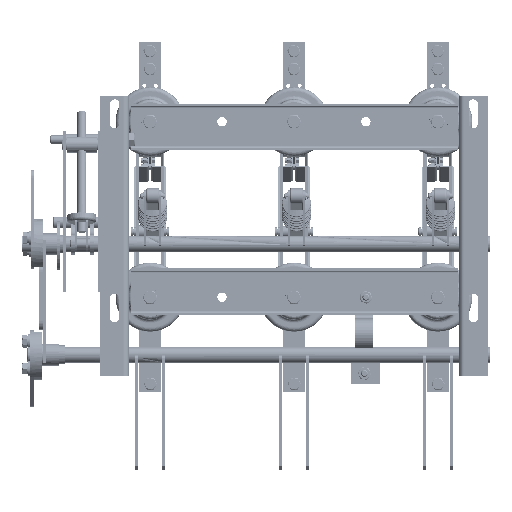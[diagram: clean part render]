
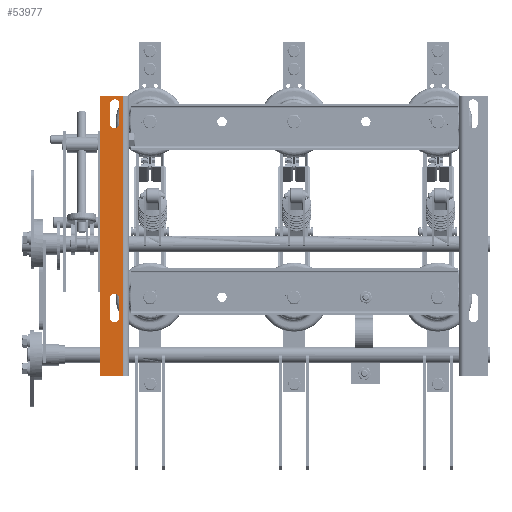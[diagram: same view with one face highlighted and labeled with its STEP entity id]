
A CAD part, front view. The second image highlights one B-rep face of the part: STEP entity #53977.
In plain terms, the highlighted planar face has unit normal (0, -1, 0).
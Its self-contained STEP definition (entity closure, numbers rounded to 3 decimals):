
#163 = DIRECTION ( 'NONE',  ( 1., 0., 0. ) ) ;
#2091 = VERTEX_POINT ( 'NONE', #44041 ) ;
#3283 = DIRECTION ( 'NONE',  ( 0., 0., 1. ) ) ;
#4060 = CARTESIAN_POINT ( 'NONE',  ( -255.703, 0.001, -121.501 ) ) ;
#6900 = VECTOR ( 'NONE', #79732, 1000. ) ;
#9127 = CIRCLE ( 'NONE', #132400, 6.5 ) ;
#9887 = CARTESIAN_POINT ( 'NONE',  ( -249.203, 0.001, 121.499 ) ) ;
#10091 = CARTESIAN_POINT ( 'NONE',  ( -269.203, 0.001, 159.999 ) ) ;
#10312 = FACE_BOUND ( 'NONE', #39398, .T. ) ;
#11135 = VECTOR ( 'NONE', #31473, 1000. ) ;
#11276 = CARTESIAN_POINT ( 'NONE',  ( -242.703, 0.001, 148.499 ) ) ;
#11420 = ORIENTED_EDGE ( 'NONE', *, *, #103363, .T. ) ;
#11783 = VERTEX_POINT ( 'NONE', #92690 ) ;
#13111 = EDGE_CURVE ( 'NONE', #122174, #84248, #59814, .T. ) ;
#14427 = VERTEX_POINT ( 'NONE', #17258 ) ;
#16050 = CARTESIAN_POINT ( 'NONE',  ( -255.703, 0.001, -148.501 ) ) ;
#16556 = VECTOR ( 'NONE', #163, 1000. ) ;
#16709 = EDGE_LOOP ( 'NONE', ( #44577, #107113, #71428, #70408 ) ) ;
#16787 = FACE_BOUND ( 'NONE', #16709, .T. ) ;
#17258 = CARTESIAN_POINT ( 'NONE',  ( -237., 0.001, -230.001 ) ) ;
#17866 = EDGE_CURVE ( 'NONE', #14427, #29775, #117113, .T. ) ;
#17962 = CARTESIAN_POINT ( 'NONE',  ( -255.703, 0.001, -148.501 ) ) ;
#20308 = DIRECTION ( 'NONE',  ( 1., 0., 0. ) ) ;
#20427 = LINE ( 'NONE', #42575, #44758 ) ;
#24231 = VECTOR ( 'NONE', #110286, 1000. ) ;
#28426 = DIRECTION ( 'NONE',  ( 0., 0., 1. ) ) ;
#28511 = EDGE_LOOP ( 'NONE', ( #11420, #46632, #121861, #111042 ) ) ;
#29775 = VERTEX_POINT ( 'NONE', #98249 ) ;
#31020 = CARTESIAN_POINT ( 'NONE',  ( -255.703, 0.001, 148.499 ) ) ;
#31473 = DIRECTION ( 'NONE',  ( 0., 0., 1. ) ) ;
#35249 = VERTEX_POINT ( 'NONE', #43849 ) ;
#38066 = DIRECTION ( 'NONE',  ( 0., 1., 0. ) ) ;
#39398 = EDGE_LOOP ( 'NONE', ( #113798, #67978, #88441, #110445 ) ) ;
#39739 = CARTESIAN_POINT ( 'NONE',  ( -242.703, 0.001, -121.501 ) ) ;
#41115 = DIRECTION ( 'NONE',  ( 0., 0., 1. ) ) ;
#41144 = CARTESIAN_POINT ( 'NONE',  ( -249.203, 0.001, -121.501 ) ) ;
#42575 = CARTESIAN_POINT ( 'NONE',  ( -242.703, 0.001, -121.501 ) ) ;
#43849 = CARTESIAN_POINT ( 'NONE',  ( -242.703, 0.001, -148.501 ) ) ;
#44041 = CARTESIAN_POINT ( 'NONE',  ( -269.203, 0.001, 159.999 ) ) ;
#44577 = ORIENTED_EDGE ( 'NONE', *, *, #80475, .T. ) ;
#44758 = VECTOR ( 'NONE', #115002, 1000. ) ;
#44787 = EDGE_CURVE ( 'NONE', #108702, #128143, #75479, .T. ) ;
#45508 = VECTOR ( 'NONE', #3283, 1000. ) ;
#46632 = ORIENTED_EDGE ( 'NONE', *, *, #47893, .F. ) ;
#47893 = EDGE_CURVE ( 'NONE', #2091, #51775, #126828, .T. ) ;
#48038 = VECTOR ( 'NONE', #51498, 1000. ) ;
#51498 = DIRECTION ( 'NONE',  ( 0., 0., -1. ) ) ;
#51588 = DIRECTION ( 'NONE',  ( -1., 0., 0. ) ) ;
#51775 = VERTEX_POINT ( 'NONE', #99670 ) ;
#52341 = EDGE_CURVE ( 'NONE', #128143, #11783, #56093, .T. ) ;
#53874 = DIRECTION ( 'NONE',  ( 0., 1., 0. ) ) ;
#53977 = ADVANCED_FACE ( 'NONE', ( #120539, #10312, #16787 ), #82241, .F. ) ;
#54717 = VERTEX_POINT ( 'NONE', #16050 ) ;
#56093 = CIRCLE ( 'NONE', #60418, 6.5 ) ;
#56438 = CARTESIAN_POINT ( 'NONE',  ( -242.703, 0.001, 121.499 ) ) ;
#59814 = CIRCLE ( 'NONE', #107622, 6.5 ) ;
#60418 = AXIS2_PLACEMENT_3D ( 'NONE', #9887, #82285, #20308 ) ;
#67978 = ORIENTED_EDGE ( 'NONE', *, *, #13111, .T. ) ;
#70408 = ORIENTED_EDGE ( 'NONE', *, *, #84895, .T. ) ;
#71428 = ORIENTED_EDGE ( 'NONE', *, *, #52341, .T. ) ;
#74766 = LINE ( 'NONE', #17962, #95864 ) ;
#75479 = LINE ( 'NONE', #113482, #48038 ) ;
#77534 = EDGE_CURVE ( 'NONE', #29775, #2091, #90470, .T. ) ;
#79732 = DIRECTION ( 'NONE',  ( -1., 0., 0. ) ) ;
#80475 = EDGE_CURVE ( 'NONE', #103531, #108702, #83595, .T. ) ;
#82241 = PLANE ( 'NONE',  #86499 ) ;
#82285 = DIRECTION ( 'NONE',  ( 0., 1., 0. ) ) ;
#83595 = CIRCLE ( 'NONE', #98120, 6.5 ) ;
#84248 = VERTEX_POINT ( 'NONE', #39739 ) ;
#84895 = EDGE_CURVE ( 'NONE', #11783, #103531, #128132, .T. ) ;
#86499 = AXIS2_PLACEMENT_3D ( 'NONE', #92688, #113096, #41115 ) ;
#88441 = ORIENTED_EDGE ( 'NONE', *, *, #114140, .T. ) ;
#90207 = EDGE_CURVE ( 'NONE', #54717, #122174, #74766, .T. ) ;
#90470 = LINE ( 'NONE', #93440, #11135 ) ;
#92688 = CARTESIAN_POINT ( 'NONE',  ( -217.703, 0.001, -25.001 ) ) ;
#92690 = CARTESIAN_POINT ( 'NONE',  ( -255.703, 0.001, 121.499 ) ) ;
#93440 = CARTESIAN_POINT ( 'NONE',  ( -269.203, 0.001, -230.001 ) ) ;
#95864 = VECTOR ( 'NONE', #28426, 1000. ) ;
#98120 = AXIS2_PLACEMENT_3D ( 'NONE', #115865, #53874, #126305 ) ;
#98249 = CARTESIAN_POINT ( 'NONE',  ( -269.203, 0.001, -230.001 ) ) ;
#99670 = CARTESIAN_POINT ( 'NONE',  ( -237., 0.001, 159.999 ) ) ;
#100083 = CARTESIAN_POINT ( 'NONE',  ( -249.203, 0.001, -148.501 ) ) ;
#103363 = EDGE_CURVE ( 'NONE', #14427, #51775, #106826, .T. ) ;
#103531 = VERTEX_POINT ( 'NONE', #31020 ) ;
#106826 = LINE ( 'NONE', #120721, #24231 ) ;
#107113 = ORIENTED_EDGE ( 'NONE', *, *, #44787, .T. ) ;
#107622 = AXIS2_PLACEMENT_3D ( 'NONE', #41144, #113581, #51588 ) ;
#108702 = VERTEX_POINT ( 'NONE', #11276 ) ;
#110286 = DIRECTION ( 'NONE',  ( 0., 0., 1. ) ) ;
#110445 = ORIENTED_EDGE ( 'NONE', *, *, #133924, .T. ) ;
#110520 = DIRECTION ( 'NONE',  ( 1., 0., 0. ) ) ;
#111042 = ORIENTED_EDGE ( 'NONE', *, *, #17866, .F. ) ;
#113096 = DIRECTION ( 'NONE',  ( 0., 1., 0. ) ) ;
#113482 = CARTESIAN_POINT ( 'NONE',  ( -242.703, 0.001, 148.499 ) ) ;
#113581 = DIRECTION ( 'NONE',  ( 0., 1., 0. ) ) ;
#113798 = ORIENTED_EDGE ( 'NONE', *, *, #90207, .T. ) ;
#114140 = EDGE_CURVE ( 'NONE', #84248, #35249, #20427, .T. ) ;
#115002 = DIRECTION ( 'NONE',  ( 0., 0., -1. ) ) ;
#115865 = CARTESIAN_POINT ( 'NONE',  ( -249.203, 0.001, 148.499 ) ) ;
#117113 = LINE ( 'NONE', #131435, #6900 ) ;
#120539 = FACE_OUTER_BOUND ( 'NONE', #28511, .T. ) ;
#120721 = CARTESIAN_POINT ( 'NONE',  ( -237., 0.001, -230.001 ) ) ;
#121861 = ORIENTED_EDGE ( 'NONE', *, *, #77534, .F. ) ;
#122174 = VERTEX_POINT ( 'NONE', #4060 ) ;
#126305 = DIRECTION ( 'NONE',  ( -1., 0., 0. ) ) ;
#126828 = LINE ( 'NONE', #10091, #16556 ) ;
#127405 = CARTESIAN_POINT ( 'NONE',  ( -255.703, 0.001, 121.499 ) ) ;
#128132 = LINE ( 'NONE', #127405, #45508 ) ;
#128143 = VERTEX_POINT ( 'NONE', #56438 ) ;
#131435 = CARTESIAN_POINT ( 'NONE',  ( -237., 0.001, -230.001 ) ) ;
#132400 = AXIS2_PLACEMENT_3D ( 'NONE', #100083, #38066, #110520 ) ;
#133924 = EDGE_CURVE ( 'NONE', #35249, #54717, #9127, .T. ) ;
